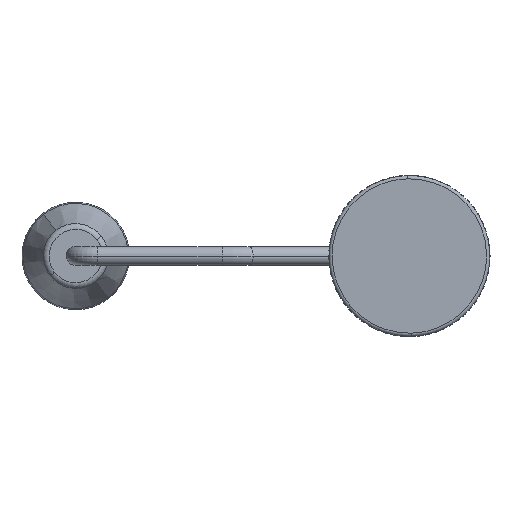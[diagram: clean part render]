
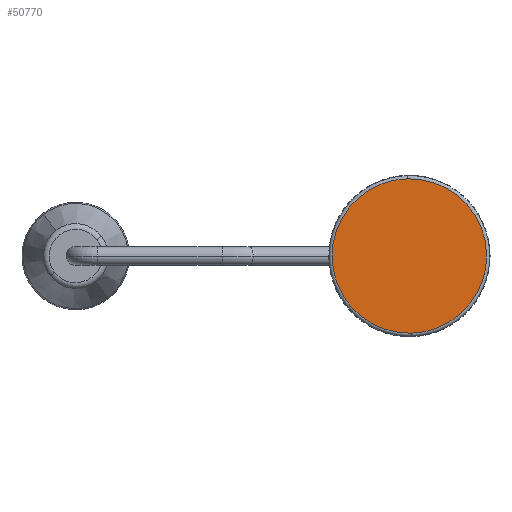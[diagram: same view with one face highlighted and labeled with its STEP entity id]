
A CAD part, left-side view. The second image highlights one B-rep face of the part: STEP entity #50770.
In plain terms, the highlighted planar face has unit normal (-1, 0, 0) as drawn and (0, -1, 0) by its records, which use the part's own axes.
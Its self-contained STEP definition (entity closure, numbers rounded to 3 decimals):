
#43 = DIRECTION ( 'NONE',  ( 1., 0., 0. ) ) ;
#5212 = DIRECTION ( 'NONE',  ( 0., -1., 0. ) ) ;
#9185 = AXIS2_PLACEMENT_3D ( 'NONE', #9881, #63609, #43 ) ;
#9881 = CARTESIAN_POINT ( 'NONE',  ( 0., 0., 0. ) ) ;
#14753 = ORIENTED_EDGE ( 'NONE', *, *, #48758, .F. ) ;
#19941 = CARTESIAN_POINT ( 'NONE',  ( 0., 0., 25. ) ) ;
#20953 = EDGE_LOOP ( 'NONE', ( #14753, #27972 ) ) ;
#22635 = AXIS2_PLACEMENT_3D ( 'NONE', #67198, #34508, #60865 ) ;
#27972 = ORIENTED_EDGE ( 'NONE', *, *, #40957, .F. ) ;
#31927 = VERTEX_POINT ( 'NONE', #57253 ) ;
#32708 = CIRCLE ( 'NONE', #22635, 25. ) ;
#34508 = DIRECTION ( 'NONE',  ( 0., 1., 0. ) ) ;
#40957 = EDGE_CURVE ( 'NONE', #31927, #66018, #32708, .T. ) ;
#48758 = EDGE_CURVE ( 'NONE', #66018, #31927, #57420, .T. ) ;
#50770 = ADVANCED_FACE ( 'NONE', ( #53375 ), #69514, .T. ) ;
#52331 = CARTESIAN_POINT ( 'NONE',  ( -26., 0., 0. ) ) ;
#53375 = FACE_OUTER_BOUND ( 'NONE', #20953, .T. ) ;
#57253 = CARTESIAN_POINT ( 'NONE',  ( 0., 0., -25. ) ) ;
#57420 = CIRCLE ( 'NONE', #9185, 25. ) ;
#60865 = DIRECTION ( 'NONE',  ( 1., 0., 0. ) ) ;
#63542 = DIRECTION ( 'NONE',  ( 0., 0., -1. ) ) ;
#63609 = DIRECTION ( 'NONE',  ( 0., 1., 0. ) ) ;
#64749 = AXIS2_PLACEMENT_3D ( 'NONE', #52331, #5212, #63542 ) ;
#66018 = VERTEX_POINT ( 'NONE', #19941 ) ;
#67198 = CARTESIAN_POINT ( 'NONE',  ( 0., 0., 0. ) ) ;
#69514 = PLANE ( 'NONE',  #64749 ) ;
